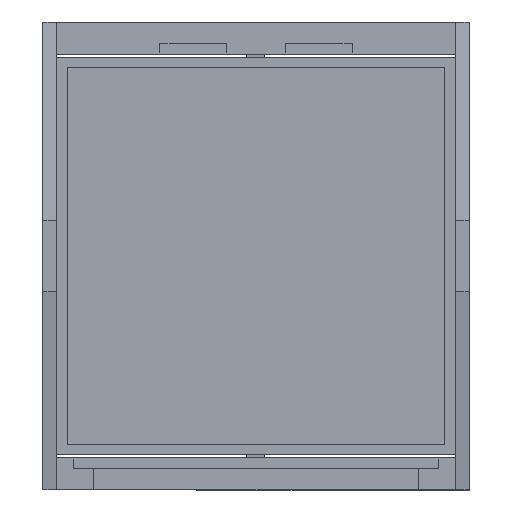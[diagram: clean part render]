
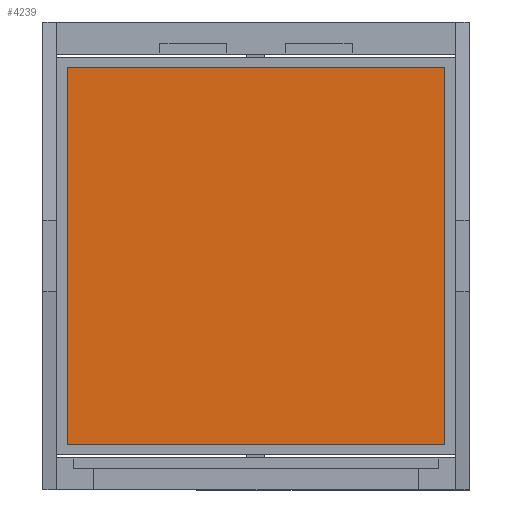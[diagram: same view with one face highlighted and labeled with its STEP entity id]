
A CAD part, front view. The second image highlights one B-rep face of the part: STEP entity #4239.
In plain terms, the highlighted planar face has unit normal (0, -1, 0).
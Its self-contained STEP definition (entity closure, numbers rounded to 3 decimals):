
#123 = EDGE_CURVE ( 'NONE', #6500, #8789, #328, .T. ) ;
#328 = LINE ( 'NONE', #8339, #3546 ) ;
#959 = EDGE_CURVE ( 'NONE', #8789, #7551, #1757, .T. ) ;
#1352 = EDGE_CURVE ( 'NONE', #7551, #4325, #6405, .T. ) ;
#1742 = VECTOR ( 'NONE', #6986, 1000. ) ;
#1757 = LINE ( 'NONE', #3295, #1742 ) ;
#2245 = DIRECTION ( 'NONE',  ( 0., 0., 1. ) ) ;
#2522 = DIRECTION ( 'NONE',  ( -1., 0., 0. ) ) ;
#2606 = DIRECTION ( 'NONE',  ( 0., 0., -1. ) ) ;
#2704 = ORIENTED_EDGE ( 'NONE', *, *, #9319, .F. ) ;
#2858 = DIRECTION ( 'NONE',  ( 0., 1., 0. ) ) ;
#2996 = CARTESIAN_POINT ( 'NONE',  ( 10.763, -5.415, 28.467 ) ) ;
#3295 = CARTESIAN_POINT ( 'NONE',  ( -29.237, -5.415, 28.467 ) ) ;
#3546 = VECTOR ( 'NONE', #4721, 1000. ) ;
#4228 = ORIENTED_EDGE ( 'NONE', *, *, #959, .F. ) ;
#4239 = ADVANCED_FACE ( 'NONE', ( #4971 ), #6375, .F. ) ;
#4325 = VERTEX_POINT ( 'NONE', #5407 ) ;
#4721 = DIRECTION ( 'NONE',  ( 0., 0., 1. ) ) ;
#4774 = LINE ( 'NONE', #9113, #7135 ) ;
#4971 = FACE_OUTER_BOUND ( 'NONE', #5377, .T. ) ;
#5240 = CARTESIAN_POINT ( 'NONE',  ( -29.237, -5.415, 28.467 ) ) ;
#5377 = EDGE_LOOP ( 'NONE', ( #6404, #2704, #7902, #4228 ) ) ;
#5407 = CARTESIAN_POINT ( 'NONE',  ( 10.763, -5.415, -11.533 ) ) ;
#5871 = VECTOR ( 'NONE', #2606, 1000. ) ;
#6375 = PLANE ( 'NONE',  #7600 ) ;
#6404 = ORIENTED_EDGE ( 'NONE', *, *, #123, .F. ) ;
#6405 = LINE ( 'NONE', #7651, #5871 ) ;
#6500 = VERTEX_POINT ( 'NONE', #8359 ) ;
#6986 = DIRECTION ( 'NONE',  ( 1., 0., 0. ) ) ;
#7135 = VECTOR ( 'NONE', #2522, 1000. ) ;
#7551 = VERTEX_POINT ( 'NONE', #2996 ) ;
#7600 = AXIS2_PLACEMENT_3D ( 'NONE', #8043, #2858, #2245 ) ;
#7651 = CARTESIAN_POINT ( 'NONE',  ( 10.763, -5.415, -11.533 ) ) ;
#7902 = ORIENTED_EDGE ( 'NONE', *, *, #1352, .F. ) ;
#8043 = CARTESIAN_POINT ( 'NONE',  ( -29.237, -5.415, 28.467 ) ) ;
#8339 = CARTESIAN_POINT ( 'NONE',  ( -29.237, -5.415, -11.533 ) ) ;
#8359 = CARTESIAN_POINT ( 'NONE',  ( -29.237, -5.415, -11.533 ) ) ;
#8789 = VERTEX_POINT ( 'NONE', #5240 ) ;
#9113 = CARTESIAN_POINT ( 'NONE',  ( -29.237, -5.415, -11.533 ) ) ;
#9319 = EDGE_CURVE ( 'NONE', #4325, #6500, #4774, .T. ) ;
